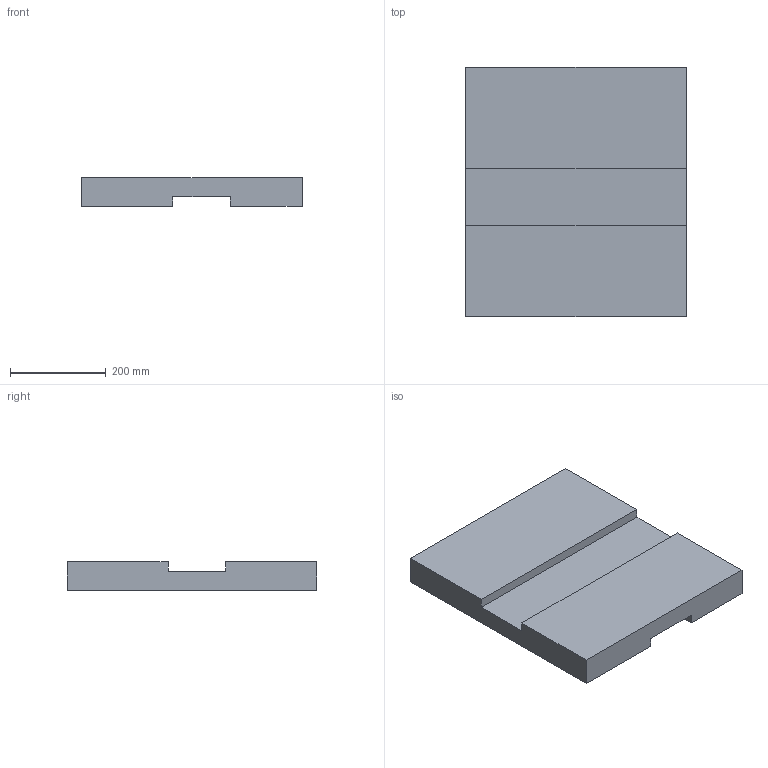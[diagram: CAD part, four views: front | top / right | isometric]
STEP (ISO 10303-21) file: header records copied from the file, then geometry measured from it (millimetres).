
FILE_DESCRIPTION (( 'STEP AP203' ), '1' );
FILE_NAME ('Transversal.STEP', '2009-12-04T11:22:53', ( 'Famille Couzi' ), ( '' ), 'SwSTEP 2.0', 'SolidWorks 2005143', '' );
FILE_SCHEMA (( 'CONFIG_CONTROL_DESIGN' ));
Length unit declared in the file: millimetre
Products named in the file (1): Transversal
Bounding box: 460 x 520 x 60 mm (x, y, z)
Volume: 12000000 mm3; surface area: 625600 mm2
Topology: 1 solids, 1 shells, 14 faces, 36 edges, 24 vertices
Faces by surface type: plane 14
Entity records: 497 total; most frequent: CARTESIAN_POINT 75, ORIENTED_EDGE 72, DIRECTION 66, EDGE_CURVE 36, VECTOR 36, LINE 36, VERTEX_POINT 24, AXIS2_PLACEMENT_3D 15
